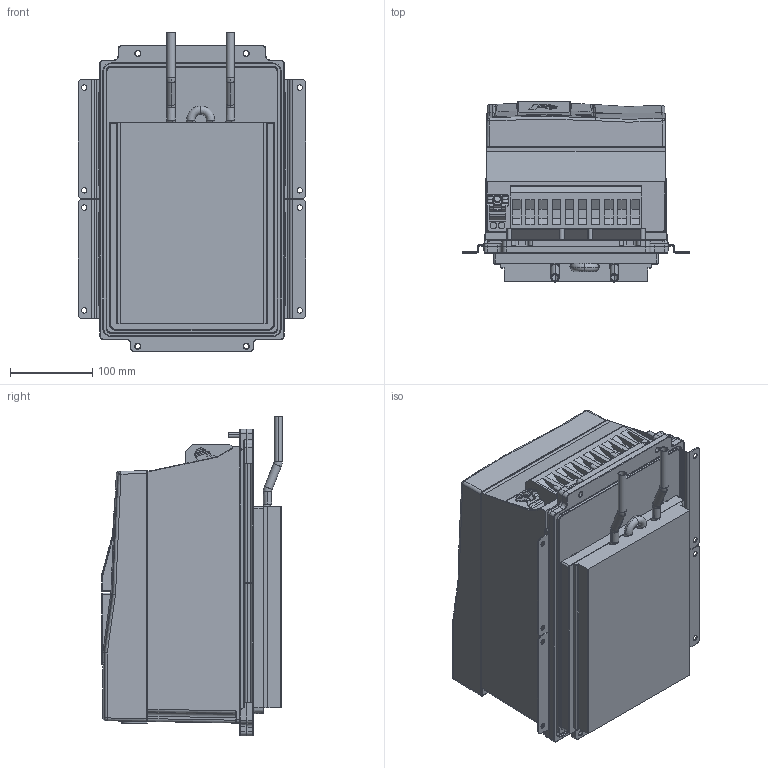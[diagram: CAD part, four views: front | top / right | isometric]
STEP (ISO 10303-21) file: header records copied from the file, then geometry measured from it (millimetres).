
FILE_DESCRIPTION (( 'STEP AP214' ), '1' );
FILE_NAME ('F6-4TW5-A010.STEP', '2020-12-10T07:45:55', ( '' ), ( '' ), 'SwSTEP 2.0', 'SolidWorks 2019', '' );
FILE_SCHEMA (( 'AUTOMOTIVE_DESIGN' ));
Length unit declared in the file: millimetre
Products named in the file (11): 10061644_000_Deckel (Kundenmodell); 10059765_000; 10061645_000; 10058448_000; 10059761_000; 10032600_000_Kundenmodell; 10044643_000_Kundenmodell; 10045826_000_Basis Leistungsteil TW5 (Kundenmodell); 10059764_000_Blindabdeckung (Kundenmodell); 10061790_000; F6-4TW5-A010
Assembly tree (10 placements, depth 4):
  F6-4TW5-A010
    10045826_000_Basis Leistungsteil TW5 (Kundenmodell)
      10061790_000
    10032600_000_Kundenmodell
      10061644_000_Deckel (Kundenmodell)
        10061645_000
      10058448_000
    10044643_000_Kundenmodell
      10059764_000_Blindabdeckung (Kundenmodell)
        10059765_000
      10059761_000
Bounding box: 277 x 219.7 x 389 mm (x, y, z)
Volume: 14022630.8 mm3; surface area: 859345.5 mm2
Topology: 11 solids, 29 shells, 2744 faces, 7177 edges, 4523 vertices
Faces by surface type: plane 1152, cylinder 700, bspline 546, torus 197, cone 109, sphere 40
Entity records: 106475 total; most frequent: CARTESIAN_POINT 42300, ORIENTED_EDGE 14228, DIRECTION 11838, EDGE_CURVE 7114, VERTEX_POINT 4521, AXIS2_PLACEMENT_3D 3982, LINE 3874, VECTOR 3874
